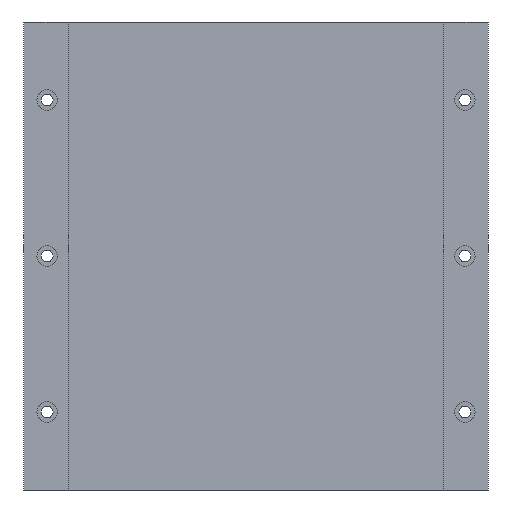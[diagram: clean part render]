
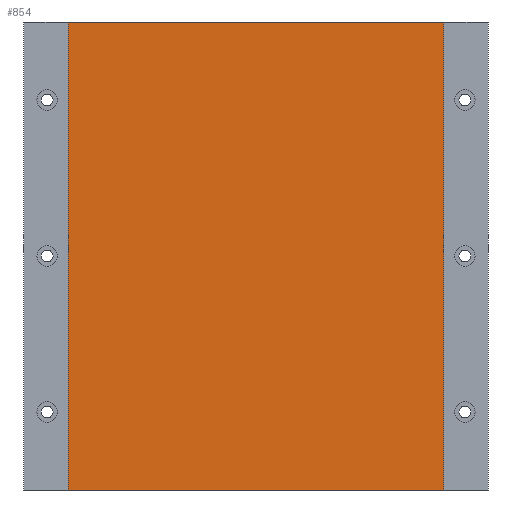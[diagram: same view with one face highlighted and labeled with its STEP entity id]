
A CAD part, left-side view. The second image highlights one B-rep face of the part: STEP entity #854.
In plain terms, the highlighted planar face has unit normal (-1, 0, 0).
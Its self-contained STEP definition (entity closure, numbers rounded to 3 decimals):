
#15 = DIRECTION ( 'NONE',  ( 0., 1., 0. ) ) ;
#33 = LINE ( 'NONE', #982, #265 ) ;
#91 = PLANE ( 'NONE',  #1207 ) ;
#100 = VECTOR ( 'NONE', #144, 1000. ) ;
#110 = EDGE_LOOP ( 'NONE', ( #1087, #940, #114, #382 ) ) ;
#114 = ORIENTED_EDGE ( 'NONE', *, *, #1232, .T. ) ;
#115 = LINE ( 'NONE', #438, #421 ) ;
#127 = EDGE_CURVE ( 'NONE', #601, #1069, #115, .T. ) ;
#144 = DIRECTION ( 'NONE',  ( 0., 0., -1. ) ) ;
#187 = CARTESIAN_POINT ( 'NONE',  ( -7.8, -101.15, 0. ) ) ;
#265 = VECTOR ( 'NONE', #15, 1000. ) ;
#299 = CARTESIAN_POINT ( 'NONE',  ( -7.8, 101.15, 0. ) ) ;
#382 = ORIENTED_EDGE ( 'NONE', *, *, #127, .T. ) ;
#413 = VERTEX_POINT ( 'NONE', #187 ) ;
#421 = VECTOR ( 'NONE', #625, 1000. ) ;
#435 = LINE ( 'NONE', #1212, #742 ) ;
#438 = CARTESIAN_POINT ( 'NONE',  ( -7.8, 101.15, 252. ) ) ;
#472 = EDGE_CURVE ( 'NONE', #413, #1069, #33, .T. ) ;
#520 = VERTEX_POINT ( 'NONE', #685 ) ;
#601 = VERTEX_POINT ( 'NONE', #602 ) ;
#602 = CARTESIAN_POINT ( 'NONE',  ( -7.8, 101.15, 252. ) ) ;
#606 = EDGE_CURVE ( 'NONE', #520, #413, #1061, .T. ) ;
#625 = DIRECTION ( 'NONE',  ( 0., 0., -1. ) ) ;
#685 = CARTESIAN_POINT ( 'NONE',  ( -7.8, -101.15, 252. ) ) ;
#742 = VECTOR ( 'NONE', #1201, 1000. ) ;
#806 = CARTESIAN_POINT ( 'NONE',  ( -7.8, -101.15, 252. ) ) ;
#839 = DIRECTION ( 'NONE',  ( 0., 0., 1. ) ) ;
#854 = ADVANCED_FACE ( 'NONE', ( #928 ), #91, .T. ) ;
#928 = FACE_OUTER_BOUND ( 'NONE', #110, .T. ) ;
#940 = ORIENTED_EDGE ( 'NONE', *, *, #606, .F. ) ;
#982 = CARTESIAN_POINT ( 'NONE',  ( -7.8, 0., 0. ) ) ;
#1053 = CARTESIAN_POINT ( 'NONE',  ( -7.8, 0., 252. ) ) ;
#1058 = DIRECTION ( 'NONE',  ( -1., 0., 0. ) ) ;
#1061 = LINE ( 'NONE', #806, #100 ) ;
#1069 = VERTEX_POINT ( 'NONE', #299 ) ;
#1087 = ORIENTED_EDGE ( 'NONE', *, *, #472, .F. ) ;
#1201 = DIRECTION ( 'NONE',  ( 0., 1., 0. ) ) ;
#1207 = AXIS2_PLACEMENT_3D ( 'NONE', #1053, #1058, #839 ) ;
#1212 = CARTESIAN_POINT ( 'NONE',  ( -7.8, 0., 252. ) ) ;
#1232 = EDGE_CURVE ( 'NONE', #520, #601, #435, .T. ) ;
